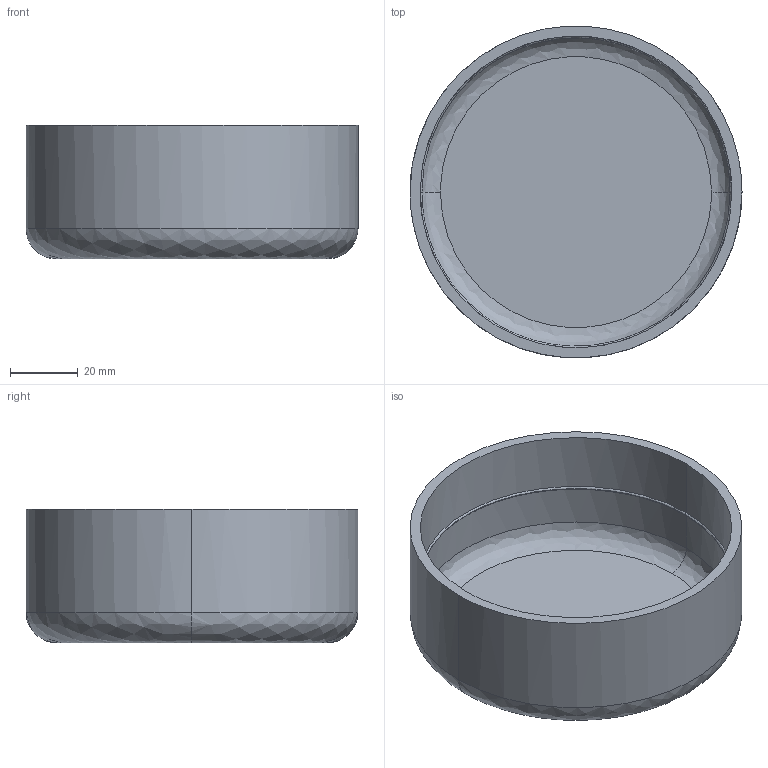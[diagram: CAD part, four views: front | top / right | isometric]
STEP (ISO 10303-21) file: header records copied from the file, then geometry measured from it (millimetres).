
FILE_DESCRIPTION(/* description */ (''),/* implementation_level */ '2;1');
FILE_NAME(/* name */ 'No Handle - 1 Cup',/* time_stamp */ '2020-01-31T12:03:38-08:00',/* author */ (''),/* organization */ (''),/* preprocessor_version */ 'ST-DEVELOPER v16.5',/* originating_system */ '',/* authorisation */ '');
FILE_SCHEMA (('AUTOMOTIVE_DESIGN'));
Length unit declared in the file: centimetre
Products named in the file (1): Document
Bounding box: 98 x 97.83 x 39.49 mm (x, y, z)
Volume: 52803.7 mm3; surface area: 35993.8 mm2
Topology: 1 solids, 1 shells, 17 faces, 32 edges, 18 vertices
Faces by surface type: bspline 14, plane 3
Entity records: 1385 total; most frequent: CARTESIAN_POINT 1178, ORIENTED_EDGE 64, EDGE_CURVE 32, EDGE_LOOP 18, VERTEX_POINT 18, ADVANCED_FACE 17, FACE_OUTER_BOUND 17, DIRECTION 7
